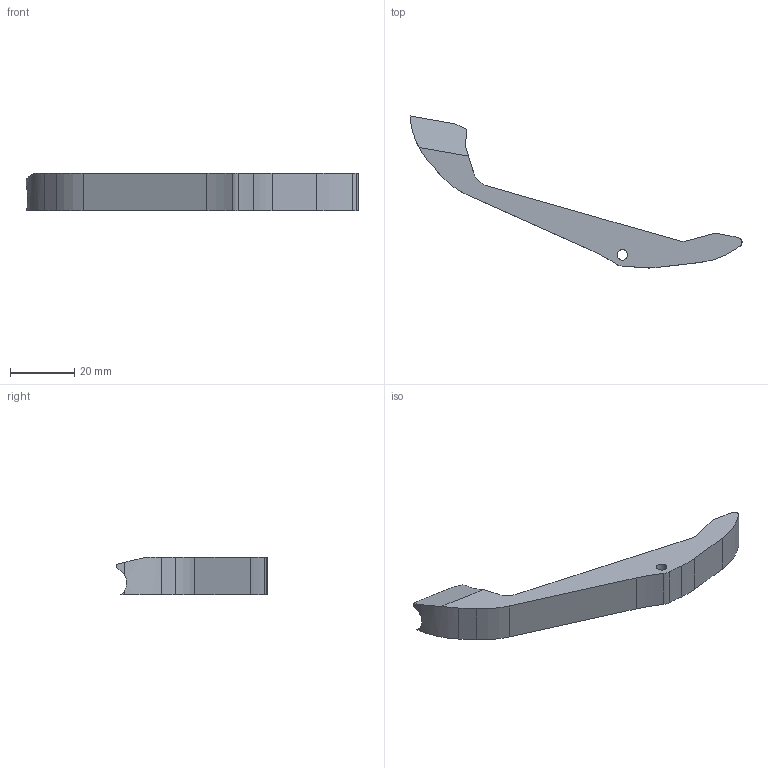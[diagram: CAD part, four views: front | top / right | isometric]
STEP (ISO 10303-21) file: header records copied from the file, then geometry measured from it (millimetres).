
FILE_DESCRIPTION(/* description */ (''),/* implementation_level */ '2;1');
FILE_NAME(/* name */ 'D:/Pew Pews/FGC-9_MkII_Stingray_Edition/Stingray Edition/.step files/1 - Upper/Ejector.step',/* time_stamp */ '2022-05-11T21:19:23-06:00',/* author */ (''),/* organization */ (''),/* preprocessor_version */ 'ST-DEVELOPER v18.1',/* originating_system */ 'Autodesk Translation Framework v10.10.0.1391',/* authorisation */ '');
FILE_SCHEMA (('AUTOMOTIVE_DESIGN { 1 0 10303 214 3 1 1 }'));
Length unit declared in the file: millimetre
Products named in the file (1): Ejector
Bounding box: 103.66 x 47.45 x 11.85 mm (x, y, z)
Volume: 11416.3 mm3; surface area: 4966 mm2
Topology: 1 solids, 1 shells, 32 faces, 89 edges, 59 vertices
Faces by surface type: cylinder 16, plane 15, bspline 1
Full cylindrical faces by diameter (mm): 3.25 x1
Entity records: 1148 total; most frequent: CARTESIAN_POINT 267, ORIENTED_EDGE 178, DIRECTION 176, EDGE_CURVE 89, AXIS2_PLACEMENT_3D 62, VERTEX_POINT 59, LINE 52, VECTOR 52
